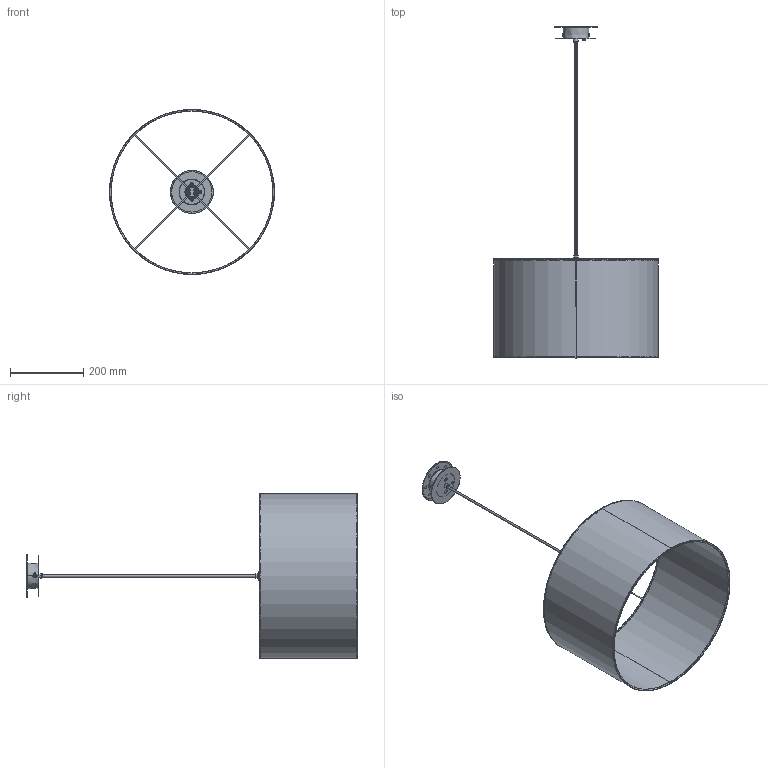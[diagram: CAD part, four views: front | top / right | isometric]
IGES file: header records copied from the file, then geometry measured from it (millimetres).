
Start section: SolidWorks IGES file using analytic representation for surfaces
Global section: file name: C:\Users\berta.gumma\OneDrive - santa &cole\Desktop\GT2 chapa adaptadora.IGS; native system: SolidWorks 2021; preprocessor: SolidWorks 2021; author: berta.gumma; date: 230907.115105; units: millimetre
Bounding box: 450 x 905.79 x 450 mm (x, y, z)
Surface area: 925475.5 mm2 (no closed solid volume)
Topology: 0 solids, 0 shells, 670 faces, 9402 edges, 9402 vertices
Faces by surface type: bspline 343, revolution 327
